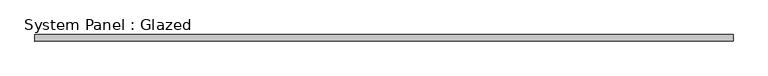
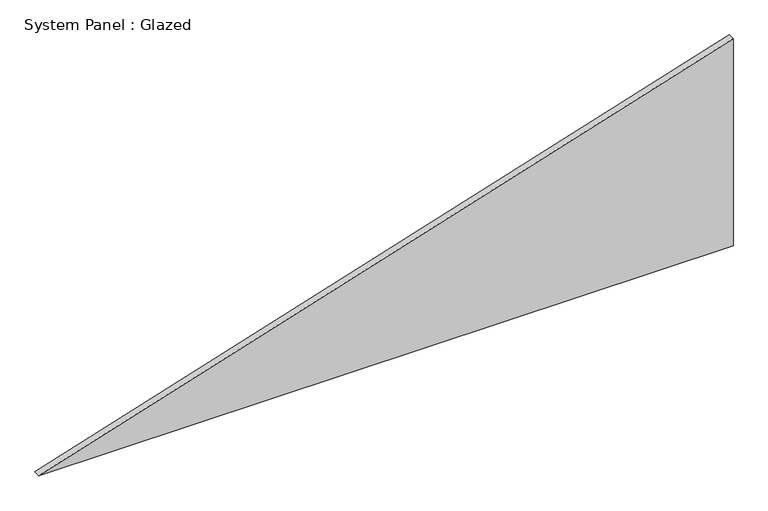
"""IFC4 building model written with IfcOpenShell, lengths in millimetres: plate geometry, System Panel : Glazed."""

from ifc_helpers import new_model, si_unit, frame, origin, place, context, project, spatial, polyline, outline, extrude, source, transform, mapped, element, save


def system_panel_glazed_3941521a(model_context):
    return source(origin(), model_context, "Body", "SweptSolid", [
        extrude(outline(polyline([(0.0, -1353.1629793), (0.0, 1353.1629793), (852.9484099, 1353.1629793), (0.0, -1353.1629793)])), frame((0.0, 19.05, 0.0), z_axis=(0.0, 1.0, 0.0), x_axis=(0.0, 0.0, 1.0)), (0.0, 0.0, 1.0), 25.4),
    ])


if __name__ == "__main__":
    model = new_model("IFC4")
    model_context = context("Model", 3, world=origin())
    ifc_project = project(units=[si_unit("LENGTHUNIT", "METRE", prefix="MILLI")], contexts=[model_context])
    site = spatial("IfcSite", under=ifc_project)
    building = spatial("IfcBuilding", under=site)
    placement = place(None, origin())
    system_panel_glazed_shape = system_panel_glazed_3941521a(model_context)
    element("IfcPlate", 1, ObjectType="System Panel : Glazed", at=placement, inside=building, context=model_context, shape_type="MappedRepresentation", body=[
        mapped(system_panel_glazed_shape, transform((0.0, 0.0, 0.0), x_axis=(1.0, 0.0, 0.0), y_axis=(0.0, 1.0, 0.0), z_axis=(0.0, 0.0, 1.0))),
    ])
    save(model, "model.ifc")
